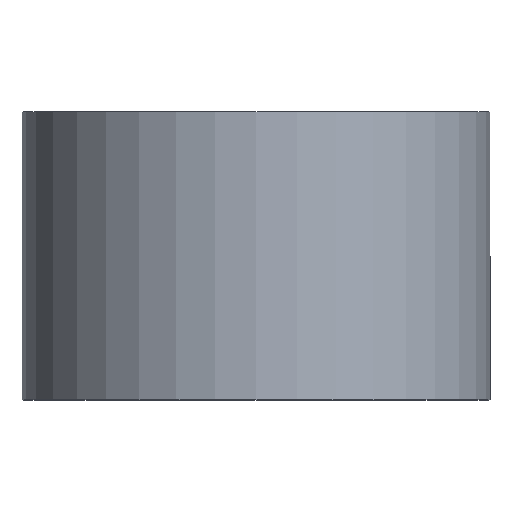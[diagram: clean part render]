
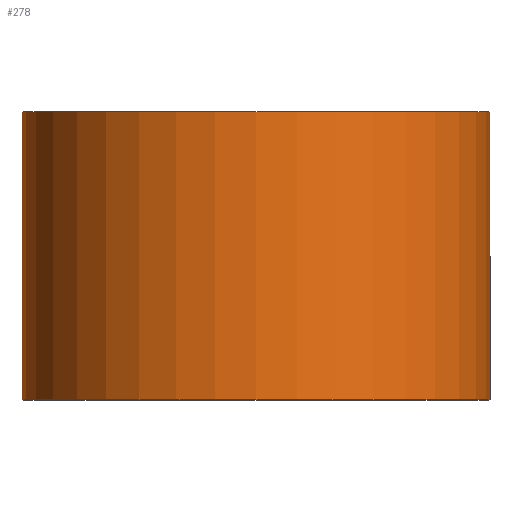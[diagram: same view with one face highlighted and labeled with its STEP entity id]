
A CAD part, top view. The second image highlights one B-rep face of the part: STEP entity #278.
In plain terms, the highlighted cylindrical face has radius 13 mm (diameter 26 mm), a partial arc.
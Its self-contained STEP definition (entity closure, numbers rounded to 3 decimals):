
#5 = DIRECTION ( 'NONE',  ( -1., 0., 0. ) ) ;
#7 = CARTESIAN_POINT ( 'NONE',  ( -13., 0., 0. ) ) ;
#15 = DIRECTION ( 'NONE',  ( -1., 0., 0. ) ) ;
#29 = DIRECTION ( 'NONE',  ( 0., 1., 0. ) ) ;
#32 = LINE ( 'NONE', #7, #215 ) ;
#33 = AXIS2_PLACEMENT_3D ( 'NONE', #113, #193, #15 ) ;
#48 = EDGE_LOOP ( 'NONE', ( #229, #111, #223, #67 ) ) ;
#58 = CARTESIAN_POINT ( 'NONE',  ( 0., 16., 0. ) ) ;
#67 = ORIENTED_EDGE ( 'NONE', *, *, #256, .F. ) ;
#77 = EDGE_CURVE ( 'NONE', #159, #185, #212, .T. ) ;
#91 = CIRCLE ( 'NONE', #188, 13. ) ;
#97 = EDGE_CURVE ( 'NONE', #106, #159, #277, .T. ) ;
#106 = VERTEX_POINT ( 'NONE', #228 ) ;
#111 = ORIENTED_EDGE ( 'NONE', *, *, #77, .T. ) ;
#113 = CARTESIAN_POINT ( 'NONE',  ( 0., 0., 0. ) ) ;
#122 = VERTEX_POINT ( 'NONE', #191 ) ;
#152 = VECTOR ( 'NONE', #160, 1000. ) ;
#156 = CARTESIAN_POINT ( 'NONE',  ( 13., 0., 0. ) ) ;
#159 = VERTEX_POINT ( 'NONE', #236 ) ;
#160 = DIRECTION ( 'NONE',  ( 0., 1., 0. ) ) ;
#166 = FACE_OUTER_BOUND ( 'NONE', #48, .T. ) ;
#185 = VERTEX_POINT ( 'NONE', #234 ) ;
#188 = AXIS2_PLACEMENT_3D ( 'NONE', #58, #29, #271 ) ;
#191 = CARTESIAN_POINT ( 'NONE',  ( -13., 16., 0. ) ) ;
#193 = DIRECTION ( 'NONE',  ( 0., 1., 0. ) ) ;
#205 = DIRECTION ( 'NONE',  ( 0., 1., 0. ) ) ;
#212 = LINE ( 'NONE', #156, #152 ) ;
#215 = VECTOR ( 'NONE', #245, 1000. ) ;
#219 = AXIS2_PLACEMENT_3D ( 'NONE', #220, #205, #5 ) ;
#220 = CARTESIAN_POINT ( 'NONE',  ( 0., 0., 0. ) ) ;
#223 = ORIENTED_EDGE ( 'NONE', *, *, #232, .F. ) ;
#228 = CARTESIAN_POINT ( 'NONE',  ( -13., 0., 0. ) ) ;
#229 = ORIENTED_EDGE ( 'NONE', *, *, #97, .T. ) ;
#232 = EDGE_CURVE ( 'NONE', #122, #185, #91, .T. ) ;
#234 = CARTESIAN_POINT ( 'NONE',  ( 13., 16., 0. ) ) ;
#236 = CARTESIAN_POINT ( 'NONE',  ( 13., 0., 0. ) ) ;
#245 = DIRECTION ( 'NONE',  ( 0., 1., 0. ) ) ;
#256 = EDGE_CURVE ( 'NONE', #106, #122, #32, .T. ) ;
#271 = DIRECTION ( 'NONE',  ( -1., 0., 0. ) ) ;
#276 = CYLINDRICAL_SURFACE ( 'NONE', #219, 13. ) ;
#277 = CIRCLE ( 'NONE', #33, 13. ) ;
#278 = ADVANCED_FACE ( 'NONE', ( #166 ), #276, .T. ) ;
